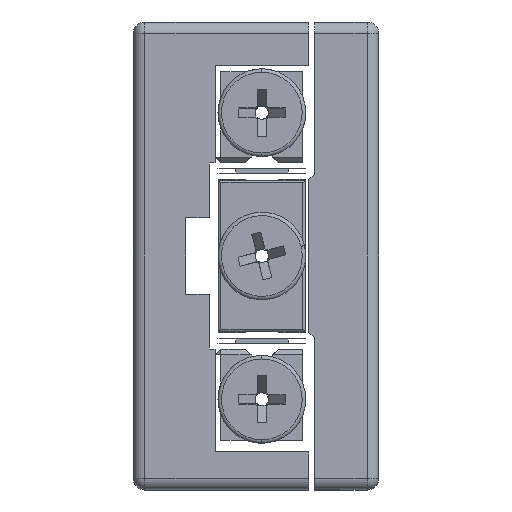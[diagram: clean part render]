
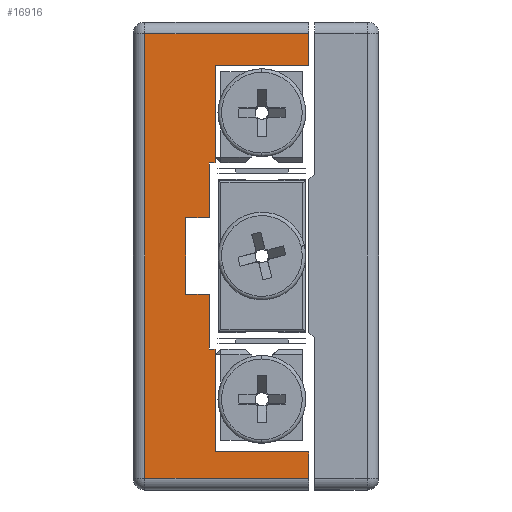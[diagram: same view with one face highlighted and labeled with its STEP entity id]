
A CAD part, left-side view. The second image highlights one B-rep face of the part: STEP entity #16916.
In plain terms, the highlighted planar face has unit normal (-1, 0, 0).
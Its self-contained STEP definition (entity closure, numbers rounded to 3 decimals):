
#1723 = VERTEX_POINT ( 'NONE', #23794 ) ;
#1751 = VERTEX_POINT ( 'NONE', #23706 ) ;
#2562 = CARTESIAN_POINT ( 'NONE',  ( -51.622, 14.881, -7.95 ) ) ;
#3111 = DIRECTION ( 'NONE',  ( 0., 0., -1. ) ) ;
#3220 = CARTESIAN_POINT ( 'NONE',  ( -51.622, 14.381, -7.95 ) ) ;
#3250 = DIRECTION ( 'NONE',  ( 0., -1., 0. ) ) ;
#3289 = DIRECTION ( 'NONE',  ( 0., 0., -1. ) ) ;
#3300 = CARTESIAN_POINT ( 'NONE',  ( -51.622, 14.881, 3.25 ) ) ;
#4068 = LINE ( 'NONE', #15757, #4071 ) ;
#4071 = VECTOR ( 'NONE', #15760, 1000. ) ;
#6961 = EDGE_LOOP ( 'NONE', ( #12773, #6999, #7310, #7313, #7308, #6997, #7304, #7306, #12769, #7302, #7300, #7156, #7225, #7219, #7235, #7217 ) ) ;
#6997 = ORIENTED_EDGE ( 'NONE', *, *, #10290, .F. ) ;
#6999 = ORIENTED_EDGE ( 'NONE', *, *, #13966, .T. ) ;
#7156 = ORIENTED_EDGE ( 'NONE', *, *, #10184, .F. ) ;
#7217 = ORIENTED_EDGE ( 'NONE', *, *, #12640, .T. ) ;
#7219 = ORIENTED_EDGE ( 'NONE', *, *, #12669, .F. ) ;
#7225 = ORIENTED_EDGE ( 'NONE', *, *, #12649, .F. ) ;
#7235 = ORIENTED_EDGE ( 'NONE', *, *, #14739, .T. ) ;
#7300 = ORIENTED_EDGE ( 'NONE', *, *, #10279, .F. ) ;
#7302 = ORIENTED_EDGE ( 'NONE', *, *, #12672, .F. ) ;
#7304 = ORIENTED_EDGE ( 'NONE', *, *, #10331, .F. ) ;
#7306 = ORIENTED_EDGE ( 'NONE', *, *, #12589, .F. ) ;
#7308 = ORIENTED_EDGE ( 'NONE', *, *, #21304, .F. ) ;
#7310 = ORIENTED_EDGE ( 'NONE', *, *, #13973, .T. ) ;
#7313 = ORIENTED_EDGE ( 'NONE', *, *, #21307, .F. ) ;
#8463 = DIRECTION ( 'NONE',  ( 0., 1., 0. ) ) ;
#8560 = CARTESIAN_POINT ( 'NONE',  ( -51.622, 14.881, 7.95 ) ) ;
#9329 = VERTEX_POINT ( 'NONE', #11074 ) ;
#9330 = VERTEX_POINT ( 'NONE', #11076 ) ;
#9347 = VERTEX_POINT ( 'NONE', #10806 ) ;
#9349 = VERTEX_POINT ( 'NONE', #10767 ) ;
#9350 = VERTEX_POINT ( 'NONE', #10762 ) ;
#9361 = VERTEX_POINT ( 'NONE', #11138 ) ;
#9378 = VERTEX_POINT ( 'NONE', #10828 ) ;
#9381 = VERTEX_POINT ( 'NONE', #10845 ) ;
#9383 = VERTEX_POINT ( 'NONE', #10772 ) ;
#9430 = VERTEX_POINT ( 'NONE', #31216 ) ;
#9433 = VERTEX_POINT ( 'NONE', #31220 ) ;
#9441 = VERTEX_POINT ( 'NONE', #31566 ) ;
#9467 = VERTEX_POINT ( 'NONE', #31510 ) ;
#9540 = VERTEX_POINT ( 'NONE', #31328 ) ;
#10184 = EDGE_CURVE ( 'NONE', #9430, #9361, #29804, .T. ) ;
#10279 = EDGE_CURVE ( 'NONE', #9361, #9540, #29930, .T. ) ;
#10290 = EDGE_CURVE ( 'NONE', #9347, #9350, #29947, .T. ) ;
#10331 = EDGE_CURVE ( 'NONE', #9349, #9347, #30005, .T. ) ;
#10762 = CARTESIAN_POINT ( 'NONE',  ( -51.622, 14.381, -7.95 ) ) ;
#10767 = CARTESIAN_POINT ( 'NONE',  ( -51.622, 14.881, -3.25 ) ) ;
#10772 = CARTESIAN_POINT ( 'NONE',  ( -51.622, 14.381, 16.25 ) ) ;
#10806 = CARTESIAN_POINT ( 'NONE',  ( -51.622, 14.881, -7.95 ) ) ;
#10828 = CARTESIAN_POINT ( 'NONE',  ( -51.622, 16.881, -3.25 ) ) ;
#10845 = CARTESIAN_POINT ( 'NONE',  ( -51.622, 6.381, 16.25 ) ) ;
#11074 = CARTESIAN_POINT ( 'NONE',  ( -51.622, 14.381, -16.75 ) ) ;
#11076 = CARTESIAN_POINT ( 'NONE',  ( -51.622, 6.381, -16.75 ) ) ;
#11138 = CARTESIAN_POINT ( 'NONE',  ( -51.622, 14.881, 7.95 ) ) ;
#11676 = CARTESIAN_POINT ( 'NONE',  ( -51.622, 16.881, -3.25 ) ) ;
#11682 = CARTESIAN_POINT ( 'NONE',  ( -51.622, 20.381, -20. ) ) ;
#11683 = DIRECTION ( 'NONE',  ( 0., 0., -1. ) ) ;
#11684 = DIRECTION ( 'NONE',  ( 0., 0., -1. ) ) ;
#12334 = EDGE_CURVE ( 'NONE', #9433, #1751, #24274, .T. ) ;
#12335 = EDGE_CURVE ( 'NONE', #9441, #9378, #24272, .T. ) ;
#12589 = EDGE_CURVE ( 'NONE', #9378, #9349, #24623, .T. ) ;
#12640 = EDGE_CURVE ( 'NONE', #9467, #9433, #24714, .T. ) ;
#12649 = EDGE_CURVE ( 'NONE', #9383, #9430, #24726, .T. ) ;
#12669 = EDGE_CURVE ( 'NONE', #9381, #9383, #24751, .T. ) ;
#12672 = EDGE_CURVE ( 'NONE', #9540, #9441, #24753, .T. ) ;
#12769 = ORIENTED_EDGE ( 'NONE', *, *, #12335, .F. ) ;
#12773 = ORIENTED_EDGE ( 'NONE', *, *, #12334, .T. ) ;
#13228 = CARTESIAN_POINT ( 'NONE',  ( -51.622, 21.381, -19. ) ) ;
#13229 = DIRECTION ( 'NONE',  ( 0., -1., 0. ) ) ;
#13268 = CARTESIAN_POINT ( 'NONE',  ( -51.622, 6.381, -20. ) ) ;
#13269 = DIRECTION ( 'NONE',  ( 0., 0., 1. ) ) ;
#13966 = EDGE_CURVE ( 'NONE', #1751, #1723, #24812, .T. ) ;
#13973 = EDGE_CURVE ( 'NONE', #1723, #9330, #24817, .T. ) ;
#14739 = EDGE_CURVE ( 'NONE', #9381, #9467, #4068, .T. ) ;
#15757 = CARTESIAN_POINT ( 'NONE',  ( -51.622, 6.381, -20. ) ) ;
#15760 = DIRECTION ( 'NONE',  ( 0., 0., 1. ) ) ;
#16916 = ADVANCED_FACE ( 'NONE', ( #32546 ), #27061, .F. ) ;
#17341 = AXIS2_PLACEMENT_3D ( 'NONE', #27057, #27062, #27063 ) ;
#21304 = EDGE_CURVE ( 'NONE', #9350, #9329, #30171, .T. ) ;
#21307 = EDGE_CURVE ( 'NONE', #9329, #9330, #30187, .T. ) ;
#21521 = CARTESIAN_POINT ( 'NONE',  ( -51.622, 14.881, -3.25 ) ) ;
#21522 = DIRECTION ( 'NONE',  ( 0., -1., 0. ) ) ;
#21682 = CARTESIAN_POINT ( 'NONE',  ( -51.622, 21.381, 19. ) ) ;
#21683 = DIRECTION ( 'NONE',  ( 0., 1., 0. ) ) ;
#21720 = CARTESIAN_POINT ( 'NONE',  ( -51.622, 14.381, 7.95 ) ) ;
#21721 = DIRECTION ( 'NONE',  ( 0., 0., -1. ) ) ;
#21877 = CARTESIAN_POINT ( 'NONE',  ( -51.622, 14.381, 16.25 ) ) ;
#21878 = DIRECTION ( 'NONE',  ( 0., 1., 0. ) ) ;
#21903 = CARTESIAN_POINT ( 'NONE',  ( -51.622, 16.881, 3.25 ) ) ;
#21904 = DIRECTION ( 'NONE',  ( 0., 1., 0. ) ) ;
#23706 = CARTESIAN_POINT ( 'NONE',  ( -51.622, 20.381, -19. ) ) ;
#23794 = CARTESIAN_POINT ( 'NONE',  ( -51.622, 6.381, -19. ) ) ;
#24272 = LINE ( 'NONE', #11676, #24279 ) ;
#24274 = LINE ( 'NONE', #11682, #24277 ) ;
#24277 = VECTOR ( 'NONE', #11683, 1000. ) ;
#24279 = VECTOR ( 'NONE', #11684, 1000. ) ;
#24623 = LINE ( 'NONE', #21521, #24626 ) ;
#24626 = VECTOR ( 'NONE', #21522, 1000. ) ;
#24714 = LINE ( 'NONE', #21682, #24717 ) ;
#24717 = VECTOR ( 'NONE', #21683, 1000. ) ;
#24726 = LINE ( 'NONE', #21720, #24730 ) ;
#24730 = VECTOR ( 'NONE', #21721, 1000. ) ;
#24751 = LINE ( 'NONE', #21877, #24754 ) ;
#24753 = LINE ( 'NONE', #21903, #24756 ) ;
#24754 = VECTOR ( 'NONE', #21878, 1000. ) ;
#24756 = VECTOR ( 'NONE', #21904, 1000. ) ;
#24812 = LINE ( 'NONE', #13228, #24815 ) ;
#24815 = VECTOR ( 'NONE', #13229, 1000. ) ;
#24817 = LINE ( 'NONE', #13268, #24818 ) ;
#24818 = VECTOR ( 'NONE', #13269, 1000. ) ;
#27057 = CARTESIAN_POINT ( 'NONE',  ( -51.622, 21.381, -20. ) ) ;
#27061 = PLANE ( 'NONE',  #17341 ) ;
#27062 = DIRECTION ( 'NONE',  ( 1., 0., 0. ) ) ;
#27063 = DIRECTION ( 'NONE',  ( 0., 0., -1. ) ) ;
#29804 = LINE ( 'NONE', #8560, #29806 ) ;
#29806 = VECTOR ( 'NONE', #8463, 1000. ) ;
#29930 = LINE ( 'NONE', #3300, #29933 ) ;
#29933 = VECTOR ( 'NONE', #3289, 1000. ) ;
#29947 = LINE ( 'NONE', #3220, #29950 ) ;
#29950 = VECTOR ( 'NONE', #3250, 1000. ) ;
#30005 = LINE ( 'NONE', #2562, #30007 ) ;
#30007 = VECTOR ( 'NONE', #3111, 1000. ) ;
#30171 = LINE ( 'NONE', #30641, #30184 ) ;
#30184 = VECTOR ( 'NONE', #30659, 1000. ) ;
#30187 = LINE ( 'NONE', #30657, #30189 ) ;
#30189 = VECTOR ( 'NONE', #30647, 1000. ) ;
#30641 = CARTESIAN_POINT ( 'NONE',  ( -51.622, 14.381, -16.75 ) ) ;
#30647 = DIRECTION ( 'NONE',  ( 0., -1., 0. ) ) ;
#30657 = CARTESIAN_POINT ( 'NONE',  ( -51.622, 14.381, -16.75 ) ) ;
#30659 = DIRECTION ( 'NONE',  ( 0., 0., -1. ) ) ;
#31216 = CARTESIAN_POINT ( 'NONE',  ( -51.622, 14.381, 7.95 ) ) ;
#31220 = CARTESIAN_POINT ( 'NONE',  ( -51.622, 20.381, 19. ) ) ;
#31328 = CARTESIAN_POINT ( 'NONE',  ( -51.622, 14.881, 3.25 ) ) ;
#31510 = CARTESIAN_POINT ( 'NONE',  ( -51.622, 6.381, 19. ) ) ;
#31566 = CARTESIAN_POINT ( 'NONE',  ( -51.622, 16.881, 3.25 ) ) ;
#32546 = FACE_OUTER_BOUND ( 'NONE', #6961, .T. ) ;
